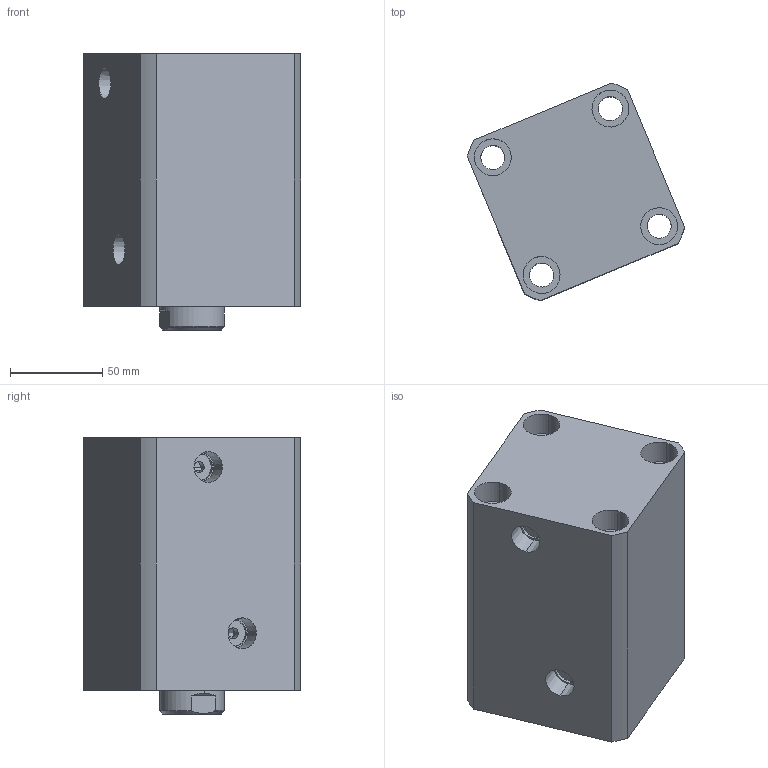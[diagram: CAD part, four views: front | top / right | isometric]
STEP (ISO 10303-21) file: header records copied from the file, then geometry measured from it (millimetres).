
FILE_DESCRIPTION (( 'STEP AP214' ), '1' );
FILE_NAME ('chtb-sd63x70n_asm.STEP', '2018-05-09T02:55:53', ( 'Windows' ), ( 'Microsoft' ), 'SwSTEP 2.0', 'SolidWorks 2015', '' );
FILE_SCHEMA (( 'AUTOMOTIVE_DESIGN' ));
Length unit declared in the file: millimetre
Products named in the file (4): CHTB63X70NHSG; CHTB63X70NBT; CHTB-63QG; chtb-sd63x70n_asm
Assembly tree (3 placements, depth 2):
  chtb-sd63x70n_asm
    CHTB-63QG
    CHTB63X70NBT
    CHTB63X70NHSG
Bounding box: 117.81 x 117.81 x 150 mm (x, y, z)
Volume: 954743.8 mm3; surface area: 161164.1 mm2
Topology: 3 solids, 3 shells, 165 faces, 465 edges, 318 vertices
Faces by surface type: cylinder 101, plane 33, bspline 12, cone 12, torus 7
Entity records: 17638 total; most frequent: CARTESIAN_POINT 13505, ORIENTED_EDGE 918, DIRECTION 719, EDGE_CURVE 459, VERTEX_POINT 318, AXIS2_PLACEMENT_3D 291, EDGE_LOOP 197, ADVANCED_FACE 165
